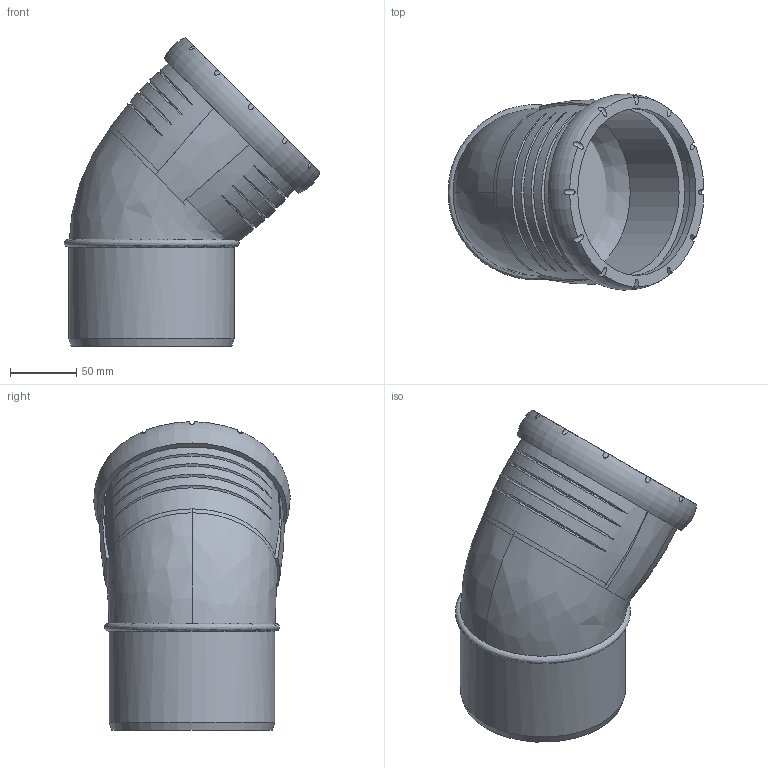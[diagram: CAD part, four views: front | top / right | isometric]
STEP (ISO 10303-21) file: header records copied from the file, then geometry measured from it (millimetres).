
FILE_DESCRIPTION(/* description */ (''),/* implementation_level */ '2;1');
FILE_NAME(/* name */ 'C:\Planerdaten\Export PLA\393.622.14.1\stp\393622.stp',/* time_stamp */ '2021-06-28T14:16:00+02:00',/* author */ ('JANAN'),/* organization */ (''),/* preprocessor_version */ 'ST-DEVELOPER v16.13',/* originating_system */ 'Autodesk Inventor 2018',/* authorisation */ '');
FILE_SCHEMA (('AUTOMOTIVE_DESIGN { 1 0 10303 214 3 1 1 }'));
Length unit declared in the file: millimetre
Products named in the file (1): tmpC963.tmp
Bounding box: 193.52 x 148.33 x 233.31 mm (x, y, z)
Volume: 1014271.1 mm3; surface area: 197786.2 mm2
Topology: 2 solids, 2 shells, 56 faces, 128 edges, 85 vertices
Faces by surface type: bspline 26, cylinder 19, plane 8, cone 2, torus 1
Full cylindrical faces by diameter (mm): 115.2 x1, 125.2 x1, 126 x1, 126.4 x1, 138.1 x1
Entity records: 4364 total; most frequent: CARTESIAN_POINT 3181, ORIENTED_EDGE 236, DIRECTION 184, EDGE_CURVE 116, AXIS2_PLACEMENT_3D 88, VERTEX_POINT 82, EDGE_LOOP 78, STYLED_ITEM 58
